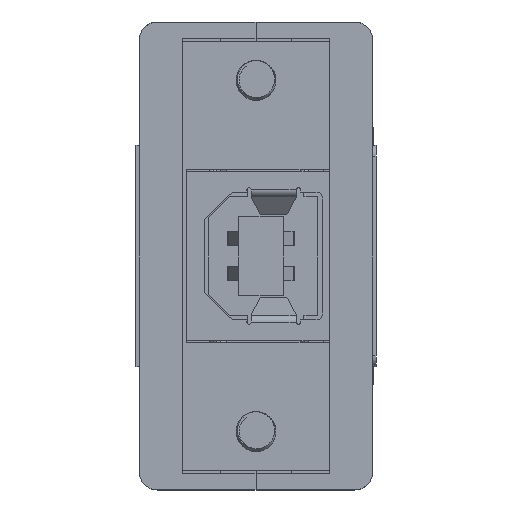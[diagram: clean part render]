
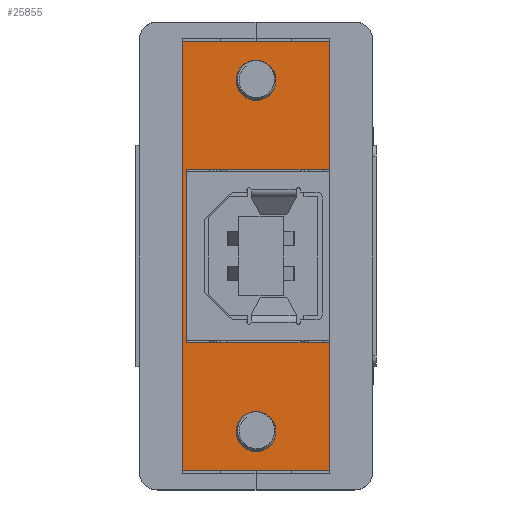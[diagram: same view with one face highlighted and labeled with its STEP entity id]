
A CAD part, left-side view. The second image highlights one B-rep face of the part: STEP entity #25855.
In plain terms, the highlighted planar face has unit normal (-1, 0, 0) as drawn and (0, 1, 0) by its records, which use the part's own axes.
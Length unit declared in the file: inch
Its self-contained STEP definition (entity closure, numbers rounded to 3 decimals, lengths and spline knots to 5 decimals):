
#421 = DIRECTION ( 'NONE',  ( -1., 0., 0. ) ) ;
#465 = DIRECTION ( 'NONE',  ( 0., -1., 0. ) ) ;
#834 = DIRECTION ( 'NONE',  ( -1., 0., 0. ) ) ;
#1369 = LINE ( 'NONE', #18161, #7343 ) ;
#3462 = VECTOR ( 'NONE', #13215, 39.37008 ) ;
#4237 = VERTEX_POINT ( 'NONE', #7433 ) ;
#4262 = LINE ( 'NONE', #19809, #30558 ) ;
#4643 = ORIENTED_EDGE ( 'NONE', *, *, #31029, .T. ) ;
#5031 = LINE ( 'NONE', #15800, #3462 ) ;
#5170 = VERTEX_POINT ( 'NONE', #20727 ) ;
#5265 = ORIENTED_EDGE ( 'NONE', *, *, #16898, .T. ) ;
#5484 = CARTESIAN_POINT ( 'NONE',  ( 0., 0.031, 0. ) ) ;
#5737 = VERTEX_POINT ( 'NONE', #27423 ) ;
#5994 = VERTEX_POINT ( 'NONE', #28313 ) ;
#6062 = AXIS2_PLACEMENT_3D ( 'NONE', #15667, #465, #18203 ) ;
#6332 = FACE_OUTER_BOUND ( 'NONE', #6653, .T. ) ;
#6653 = EDGE_LOOP ( 'NONE', ( #5265, #17920, #27596, #32450, #4643, #19080, #21098, #9182 ) ) ;
#7335 = LINE ( 'NONE', #17241, #13269 ) ;
#7343 = VECTOR ( 'NONE', #421, 39.37008 ) ;
#7433 = CARTESIAN_POINT ( 'NONE',  ( 0., 0.031, 0. ) ) ;
#8136 = VECTOR ( 'NONE', #25818, 39.37008 ) ;
#9182 = ORIENTED_EDGE ( 'NONE', *, *, #16012, .T. ) ;
#10068 = VECTOR ( 'NONE', #23843, 39.37008 ) ;
#10569 = EDGE_CURVE ( 'NONE', #5170, #11882, #4262, .T. ) ;
#11537 = CARTESIAN_POINT ( 'NONE',  ( 0.3575, 0.031, -0.5 ) ) ;
#11882 = VERTEX_POINT ( 'NONE', #15339 ) ;
#12323 = VERTEX_POINT ( 'NONE', #29915 ) ;
#12924 = LINE ( 'NONE', #15942, #19691 ) ;
#13215 = DIRECTION ( 'NONE',  ( 0., 0., 1. ) ) ;
#13269 = VECTOR ( 'NONE', #27520, 39.37008 ) ;
#14131 = DIRECTION ( 'NONE',  ( 0., 0., -1. ) ) ;
#15339 = CARTESIAN_POINT ( 'NONE',  ( 0.3575, 0.031, -0.055 ) ) ;
#15667 = CARTESIAN_POINT ( 'NONE',  ( 0., 0.031, 0. ) ) ;
#15800 = CARTESIAN_POINT ( 'NONE',  ( 0.8425, 0.031, -0.5 ) ) ;
#15942 = CARTESIAN_POINT ( 'NONE',  ( 0., 0.031, -0.5 ) ) ;
#16012 = EDGE_CURVE ( 'NONE', #12323, #30178, #12924, .T. ) ;
#16155 = EDGE_CURVE ( 'NONE', #11882, #12323, #19273, .T. ) ;
#16898 = EDGE_CURVE ( 'NONE', #30178, #4237, #22461, .T. ) ;
#17154 = VERTEX_POINT ( 'NONE', #19314 ) ;
#17170 = CARTESIAN_POINT ( 'NONE',  ( 0., 0.031, -0.5 ) ) ;
#17241 = CARTESIAN_POINT ( 'NONE',  ( 0., 0.031, 0. ) ) ;
#17920 = ORIENTED_EDGE ( 'NONE', *, *, #31830, .T. ) ;
#18161 = CARTESIAN_POINT ( 'NONE',  ( 0.8425, 0.031, -0.5 ) ) ;
#18203 = DIRECTION ( 'NONE',  ( 0., 0., -1. ) ) ;
#19080 = ORIENTED_EDGE ( 'NONE', *, *, #10569, .T. ) ;
#19273 = LINE ( 'NONE', #11537, #32063 ) ;
#19314 = CARTESIAN_POINT ( 'NONE',  ( 1.2, 0.031, -0.5 ) ) ;
#19691 = VECTOR ( 'NONE', #834, 39.37008 ) ;
#19809 = CARTESIAN_POINT ( 'NONE',  ( 0.8425, 0.031, -0.055 ) ) ;
#20606 = EDGE_CURVE ( 'NONE', #17154, #5994, #1369, .T. ) ;
#20727 = CARTESIAN_POINT ( 'NONE',  ( 0.8425, 0.031, -0.055 ) ) ;
#20738 = EDGE_CURVE ( 'NONE', #5737, #17154, #23650, .T. ) ;
#21098 = ORIENTED_EDGE ( 'NONE', *, *, #16155, .T. ) ;
#21286 = CARTESIAN_POINT ( 'NONE',  ( 1.2, 0.031, 0. ) ) ;
#22376 = DIRECTION ( 'NONE',  ( -1., 0., 0. ) ) ;
#22461 = LINE ( 'NONE', #5484, #8136 ) ;
#23650 = LINE ( 'NONE', #21286, #10068 ) ;
#23843 = DIRECTION ( 'NONE',  ( 0., 0., -1. ) ) ;
#25796 = PLANE ( 'NONE',  #6062 ) ;
#25818 = DIRECTION ( 'NONE',  ( 0., 0., 1. ) ) ;
#25855 = ADVANCED_FACE ( 'NONE', ( #6332 ), #25796, .F. ) ;
#27423 = CARTESIAN_POINT ( 'NONE',  ( 1.2, 0.031, 0. ) ) ;
#27520 = DIRECTION ( 'NONE',  ( 1., 0., 0. ) ) ;
#27596 = ORIENTED_EDGE ( 'NONE', *, *, #20738, .T. ) ;
#28313 = CARTESIAN_POINT ( 'NONE',  ( 0.8425, 0.031, -0.5 ) ) ;
#29915 = CARTESIAN_POINT ( 'NONE',  ( 0.3575, 0.031, -0.5 ) ) ;
#30178 = VERTEX_POINT ( 'NONE', #17170 ) ;
#30558 = VECTOR ( 'NONE', #22376, 39.37008 ) ;
#31029 = EDGE_CURVE ( 'NONE', #5994, #5170, #5031, .T. ) ;
#31830 = EDGE_CURVE ( 'NONE', #4237, #5737, #7335, .T. ) ;
#32063 = VECTOR ( 'NONE', #14131, 39.37008 ) ;
#32450 = ORIENTED_EDGE ( 'NONE', *, *, #20606, .T. ) ;
